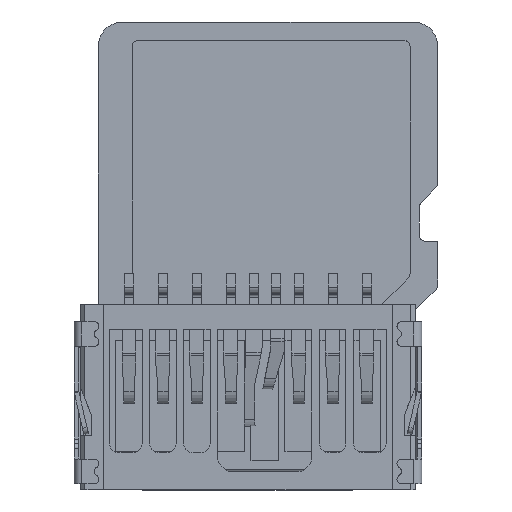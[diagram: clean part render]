
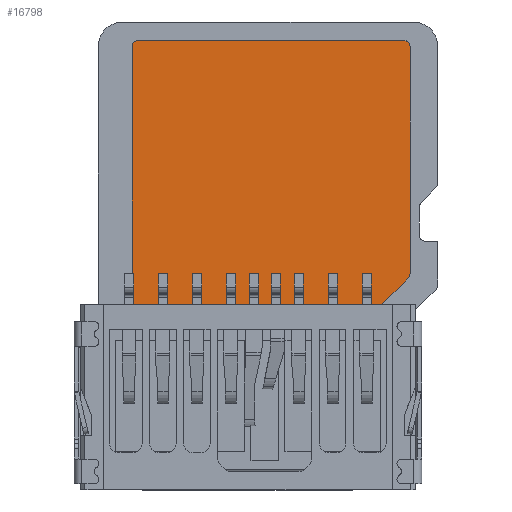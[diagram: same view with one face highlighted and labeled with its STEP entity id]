
A CAD part, front view. The second image highlights one B-rep face of the part: STEP entity #16798.
In plain terms, the highlighted planar face has unit normal (0, -1, 0) as drawn and (0, 1, 0) by its records, which use the part's own axes.
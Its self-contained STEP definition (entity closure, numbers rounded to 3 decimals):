
#15285=DIRECTION('',(0.,0.,1.));
#15286=VECTOR('',#15285,8.4);
#15287=CARTESIAN_POINT('',(-10.774,0.8,-13.481));
#15288=LINE('',#15287,#15286);
#15289=CARTESIAN_POINT('',(-10.974,0.8,-5.081));
#15290=DIRECTION('',(0.,-1.,0.));
#15291=DIRECTION('',(1.,0.,0.));
#15292=AXIS2_PLACEMENT_3D('',#15289,#15290,#15291);
#15294=DIRECTION('',(-1.,0.,0.));
#15295=VECTOR('',#15294,8.6);
#15296=CARTESIAN_POINT('',(-10.974,0.8,-4.881));
#15297=LINE('',#15296,#15295);
#15298=CARTESIAN_POINT('',(-19.574,0.8,-5.081));
#15299=DIRECTION('',(0.,-1.,0.));
#15300=DIRECTION('',(0.,0.,1.));
#15301=AXIS2_PLACEMENT_3D('',#15298,#15299,#15300);
#15303=DIRECTION('',(0.,0.,-1.));
#15304=VECTOR('',#15303,7.344);
#15305=CARTESIAN_POINT('',(-19.774,0.8,-5.081));
#15306=LINE('',#15305,#15304);
#15307=CARTESIAN_POINT('',(-19.574,0.8,-12.425));
#15308=DIRECTION('',(0.,-1.,0.));
#15309=DIRECTION('',(-1.,0.,0.));
#15310=AXIS2_PLACEMENT_3D('',#15307,#15308,#15309);
#15312=DIRECTION('',(0.707,0.,-0.707));
#15313=VECTOR('',#15312,1.493);
#15314=CARTESIAN_POINT('',(-19.715,0.8,-12.566));
#15315=LINE('',#15314,#15313);
#15316=CARTESIAN_POINT('',(-18.518,0.8,-13.481));
#15317=DIRECTION('',(0.,-1.,0.));
#15318=DIRECTION('',(-0.707,0.,-0.707));
#15319=AXIS2_PLACEMENT_3D('',#15316,#15317,#15318);
#15321=DIRECTION('',(1.,0.,0.));
#15322=VECTOR('',#15321,7.544);
#15323=CARTESIAN_POINT('',(-18.518,0.8,-13.681));
#15324=LINE('',#15323,#15322);
#15325=CARTESIAN_POINT('',(-10.974,0.8,-13.481));
#15326=DIRECTION('',(0.,-1.,0.));
#15327=DIRECTION('',(0.,0.,-1.));
#15328=AXIS2_PLACEMENT_3D('',#15325,#15326,#15327);
#15342=CARTESIAN_POINT('',(-10.774,0.8,-13.481));
#15344=VERTEX_POINT('',#15342);
#15347=CARTESIAN_POINT('',(-10.974,0.8,-13.681));
#15349=VERTEX_POINT('',#15347);
#15350=CARTESIAN_POINT('',(-18.518,0.8,-13.681));
#15352=VERTEX_POINT('',#15350);
#15355=CARTESIAN_POINT('',(-18.66,0.8,-13.622));
#15357=VERTEX_POINT('',#15355);
#15358=CARTESIAN_POINT('',(-19.715,0.8,-12.566));
#15360=VERTEX_POINT('',#15358);
#15363=CARTESIAN_POINT('',(-19.774,0.8,-12.425));
#15365=VERTEX_POINT('',#15363);
#15366=CARTESIAN_POINT('',(-19.774,0.8,-5.081));
#15368=VERTEX_POINT('',#15366);
#15371=CARTESIAN_POINT('',(-19.574,0.8,-4.881));
#15373=VERTEX_POINT('',#15371);
#15374=CARTESIAN_POINT('',(-10.974,0.8,-4.881));
#15376=VERTEX_POINT('',#15374);
#15379=CARTESIAN_POINT('',(-10.774,0.8,-5.081));
#15381=VERTEX_POINT('',#15379);
#16781=CARTESIAN_POINT('',(-15.274,0.8,-9.281));
#16782=DIRECTION('',(0.,1.,0.));
#16783=DIRECTION('',(0.,0.,-1.));
#16784=AXIS2_PLACEMENT_3D('',#16781,#16782,#16783);
#16785=PLANE('',#16784);
#16786=ORIENTED_EDGE('',*,*,#16677,.T.);
#16787=ORIENTED_EDGE('',*,*,#16692,.T.);
#16788=ORIENTED_EDGE('',*,*,#16705,.T.);
#16789=ORIENTED_EDGE('',*,*,#16720,.T.);
#16790=ORIENTED_EDGE('',*,*,#16733,.T.);
#16791=ORIENTED_EDGE('',*,*,#16748,.T.);
#16792=ORIENTED_EDGE('',*,*,#16761,.T.);
#16793=ORIENTED_EDGE('',*,*,#16775,.T.);
#16794=ORIENTED_EDGE('',*,*,#16648,.T.);
#16795=ORIENTED_EDGE('',*,*,#16664,.T.);
#16796=EDGE_LOOP('',(#16786,#16787,#16788,#16789,#16790,#16791,#16792,#16793,
#16794,#16795));
#16797=FACE_OUTER_BOUND('',#16796,.F.);
#15293=CIRCLE('',#15292,0.2);
#15302=CIRCLE('',#15301,0.2);
#15311=CIRCLE('',#15310,0.2);
#15320=CIRCLE('',#15319,0.2);
#15329=CIRCLE('',#15328,0.2);
#16648=EDGE_CURVE('',#15352,#15349,#15324,.T.);
#16664=EDGE_CURVE('',#15349,#15344,#15329,.T.);
#16677=EDGE_CURVE('',#15344,#15381,#15288,.T.);
#16692=EDGE_CURVE('',#15381,#15376,#15293,.T.);
#16705=EDGE_CURVE('',#15376,#15373,#15297,.T.);
#16720=EDGE_CURVE('',#15373,#15368,#15302,.T.);
#16733=EDGE_CURVE('',#15368,#15365,#15306,.T.);
#16748=EDGE_CURVE('',#15365,#15360,#15311,.T.);
#16761=EDGE_CURVE('',#15360,#15357,#15315,.T.);
#16775=EDGE_CURVE('',#15357,#15352,#15320,.T.);
#16798=ADVANCED_FACE('',(#16797),#16785,.T.);
